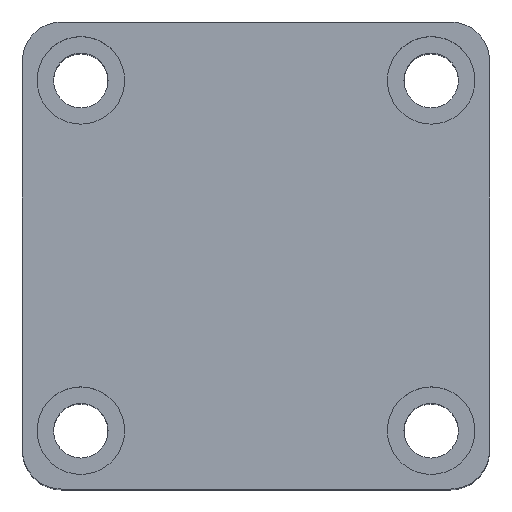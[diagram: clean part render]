
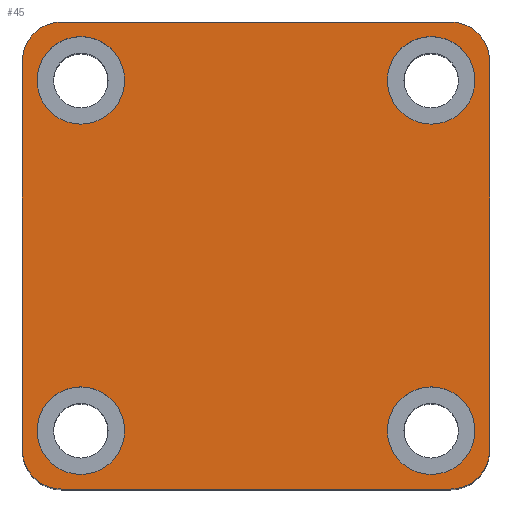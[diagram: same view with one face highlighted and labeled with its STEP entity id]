
A CAD part, top view. The second image highlights one B-rep face of the part: STEP entity #45.
In plain terms, the highlighted planar face has unit normal (0, 0, 1).
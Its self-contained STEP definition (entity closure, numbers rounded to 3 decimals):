
#45 = ADVANCED_FACE ( 'NONE', ( #1462, #1452, #1456, #1453, #1458 ), #1814, .T. ) ;
#203 = AXIS2_PLACEMENT_3D ( 'NONE', #2515, #2512, #2510 ) ;
#204 = AXIS2_PLACEMENT_3D ( 'NONE', #2518, #2517, #2516 ) ;
#205 = AXIS2_PLACEMENT_3D ( 'NONE', #2521, #2520, #2519 ) ;
#206 = AXIS2_PLACEMENT_3D ( 'NONE', #2527, #2526, #2525 ) ;
#207 = AXIS2_PLACEMENT_3D ( 'NONE', #2533, #2532, #2531 ) ;
#208 = AXIS2_PLACEMENT_3D ( 'NONE', #2537, #2536, #2535 ) ;
#209 = AXIS2_PLACEMENT_3D ( 'NONE', #2540, #2539, #2538 ) ;
#210 = AXIS2_PLACEMENT_3D ( 'NONE', #2547, #2544, #2543 ) ;
#230 = AXIS2_PLACEMENT_3D ( 'NONE', #2337, #2336, #2334 ) ;
#232 = AXIS2_PLACEMENT_3D ( 'NONE', #2368, #2366, #2363 ) ;
#234 = AXIS2_PLACEMENT_3D ( 'NONE', #2612, #2605, #2598 ) ;
#236 = AXIS2_PLACEMENT_3D ( 'NONE', #2453, #2450, #2570 ) ;
#263 = AXIS2_PLACEMENT_3D ( 'NONE', #1819, #1817, #1811 ) ;
#427 = EDGE_LOOP ( 'NONE', ( #807, #765 ) ) ;
#515 = EDGE_LOOP ( 'NONE', ( #845, #836, #833, #835, #990, #886, #808, #810 ) ) ;
#516 = EDGE_LOOP ( 'NONE', ( #963, #951 ) ) ;
#518 = EDGE_LOOP ( 'NONE', ( #908, #753 ) ) ;
#519 = EDGE_LOOP ( 'NONE', ( #768, #767 ) ) ;
#528 = VERTEX_POINT ( 'NONE', #1656 ) ;
#529 = VERTEX_POINT ( 'NONE', #1648 ) ;
#540 = VERTEX_POINT ( 'NONE', #1638 ) ;
#542 = VERTEX_POINT ( 'NONE', #1636 ) ;
#575 = VERTEX_POINT ( 'NONE', #1614 ) ;
#582 = VERTEX_POINT ( 'NONE', #1619 ) ;
#584 = VERTEX_POINT ( 'NONE', #1610 ) ;
#606 = VERTEX_POINT ( 'NONE', #1599 ) ;
#633 = VERTEX_POINT ( 'NONE', #1586 ) ;
#662 = VERTEX_POINT ( 'NONE', #1559 ) ;
#663 = VERTEX_POINT ( 'NONE', #1558 ) ;
#681 = VERTEX_POINT ( 'NONE', #1552 ) ;
#751 = VERTEX_POINT ( 'NONE', #1553 ) ;
#752 = VERTEX_POINT ( 'NONE', #1543 ) ;
#753 = ORIENTED_EDGE ( 'NONE', *, *, #2038, .F. ) ;
#755 = VERTEX_POINT ( 'NONE', #1544 ) ;
#765 = ORIENTED_EDGE ( 'NONE', *, *, #2042, .F. ) ;
#767 = ORIENTED_EDGE ( 'NONE', *, *, #2034, .F. ) ;
#768 = ORIENTED_EDGE ( 'NONE', *, *, #2090, .F. ) ;
#773 = VERTEX_POINT ( 'NONE', #1539 ) ;
#807 = ORIENTED_EDGE ( 'NONE', *, *, #2092, .F. ) ;
#808 = ORIENTED_EDGE ( 'NONE', *, *, #2074, .T. ) ;
#810 = ORIENTED_EDGE ( 'NONE', *, *, #2098, .T. ) ;
#833 = ORIENTED_EDGE ( 'NONE', *, *, #2082, .T. ) ;
#835 = ORIENTED_EDGE ( 'NONE', *, *, #2096, .T. ) ;
#836 = ORIENTED_EDGE ( 'NONE', *, *, #2094, .T. ) ;
#845 = ORIENTED_EDGE ( 'NONE', *, *, #2080, .T. ) ;
#886 = ORIENTED_EDGE ( 'NONE', *, *, #2097, .T. ) ;
#908 = ORIENTED_EDGE ( 'NONE', *, *, #2091, .F. ) ;
#951 = ORIENTED_EDGE ( 'NONE', *, *, #2046, .F. ) ;
#963 = ORIENTED_EDGE ( 'NONE', *, *, #2093, .F. ) ;
#990 = ORIENTED_EDGE ( 'NONE', *, *, #2086, .T. ) ;
#1202 = CIRCLE ( 'NONE', #203, 4. ) ;
#1203 = CIRCLE ( 'NONE', #204, 4. ) ;
#1204 = CIRCLE ( 'NONE', #205, 4. ) ;
#1205 = CIRCLE ( 'NONE', #206, 4. ) ;
#1206 = CIRCLE ( 'NONE', #207, 4.5 ) ;
#1207 = CIRCLE ( 'NONE', #208, 4.5 ) ;
#1208 = CIRCLE ( 'NONE', #209, 4.5 ) ;
#1210 = CIRCLE ( 'NONE', #210, 4.5 ) ;
#1215 = VECTOR ( 'NONE', #2558, 1000. ) ;
#1218 = LINE ( 'NONE', #2561, #1215 ) ;
#1223 = VECTOR ( 'NONE', #2567, 1000. ) ;
#1226 = LINE ( 'NONE', #2568, #1223 ) ;
#1227 = VECTOR ( 'NONE', #2572, 1000. ) ;
#1230 = LINE ( 'NONE', #2573, #1227 ) ;
#1239 = VECTOR ( 'NONE', #2600, 1000. ) ;
#1241 = LINE ( 'NONE', #2601, #1239 ) ;
#1280 = CIRCLE ( 'NONE', #230, 4.5 ) ;
#1286 = CIRCLE ( 'NONE', #232, 4.5 ) ;
#1292 = CIRCLE ( 'NONE', #234, 4.5 ) ;
#1298 = CIRCLE ( 'NONE', #236, 4.5 ) ;
#1452 = FACE_BOUND ( 'NONE', #518, .T. ) ;
#1453 = FACE_BOUND ( 'NONE', #516, .T. ) ;
#1456 = FACE_BOUND ( 'NONE', #427, .T. ) ;
#1458 = FACE_OUTER_BOUND ( 'NONE', #515, .T. ) ;
#1462 = FACE_BOUND ( 'NONE', #519, .T. ) ;
#1539 = CARTESIAN_POINT ( 'NONE',  ( 13.5, 18., 55. ) ) ;
#1543 = CARTESIAN_POINT ( 'NONE',  ( -20., -24., 55. ) ) ;
#1544 = CARTESIAN_POINT ( 'NONE',  ( 20., -24., 55. ) ) ;
#1552 = CARTESIAN_POINT ( 'NONE',  ( -13.5, -18., 55. ) ) ;
#1553 = CARTESIAN_POINT ( 'NONE',  ( -24., 20., 55. ) ) ;
#1558 = CARTESIAN_POINT ( 'NONE',  ( -13.5, 18., 55. ) ) ;
#1559 = CARTESIAN_POINT ( 'NONE',  ( 13.5, -18., 55. ) ) ;
#1586 = CARTESIAN_POINT ( 'NONE',  ( 22.5, -18., 55. ) ) ;
#1599 = CARTESIAN_POINT ( 'NONE',  ( 24., 20., 55. ) ) ;
#1610 = CARTESIAN_POINT ( 'NONE',  ( 24., -20., 55. ) ) ;
#1614 = CARTESIAN_POINT ( 'NONE',  ( -24., -20., 55. ) ) ;
#1619 = CARTESIAN_POINT ( 'NONE',  ( -22.5, 18., 55. ) ) ;
#1636 = CARTESIAN_POINT ( 'NONE',  ( 22.5, 18., 55. ) ) ;
#1638 = CARTESIAN_POINT ( 'NONE',  ( -20., 24., 55. ) ) ;
#1648 = CARTESIAN_POINT ( 'NONE',  ( -22.5, -18., 55. ) ) ;
#1656 = CARTESIAN_POINT ( 'NONE',  ( 20., 24., 55. ) ) ;
#1811 = DIRECTION ( 'NONE',  ( 1., 0., 0. ) ) ;
#1814 = PLANE ( 'NONE',  #263 ) ;
#1817 = DIRECTION ( 'NONE',  ( 0., 0., 1. ) ) ;
#1819 = CARTESIAN_POINT ( 'NONE',  ( 0., 0., 55. ) ) ;
#2034 = EDGE_CURVE ( 'NONE', #582, #663, #1298, .T. ) ;
#2038 = EDGE_CURVE ( 'NONE', #773, #542, #1292, .T. ) ;
#2042 = EDGE_CURVE ( 'NONE', #529, #681, #1286, .T. ) ;
#2046 = EDGE_CURVE ( 'NONE', #662, #633, #1280, .T. ) ;
#2074 = EDGE_CURVE ( 'NONE', #584, #606, #1241, .T. ) ;
#2080 = EDGE_CURVE ( 'NONE', #528, #540, #1230, .T. ) ;
#2082 = EDGE_CURVE ( 'NONE', #751, #575, #1226, .T. ) ;
#2086 = EDGE_CURVE ( 'NONE', #752, #755, #1218, .T. ) ;
#2090 = EDGE_CURVE ( 'NONE', #663, #582, #1210, .T. ) ;
#2091 = EDGE_CURVE ( 'NONE', #542, #773, #1208, .T. ) ;
#2092 = EDGE_CURVE ( 'NONE', #681, #529, #1207, .T. ) ;
#2093 = EDGE_CURVE ( 'NONE', #633, #662, #1206, .T. ) ;
#2094 = EDGE_CURVE ( 'NONE', #540, #751, #1205, .T. ) ;
#2096 = EDGE_CURVE ( 'NONE', #575, #752, #1204, .T. ) ;
#2097 = EDGE_CURVE ( 'NONE', #755, #584, #1203, .T. ) ;
#2098 = EDGE_CURVE ( 'NONE', #606, #528, #1202, .T. ) ;
#2334 = DIRECTION ( 'NONE',  ( 1., 0., 0. ) ) ;
#2336 = DIRECTION ( 'NONE',  ( 0., 0., 1. ) ) ;
#2337 = CARTESIAN_POINT ( 'NONE',  ( 18., -18., 55. ) ) ;
#2363 = DIRECTION ( 'NONE',  ( 1., 0., 0. ) ) ;
#2366 = DIRECTION ( 'NONE',  ( 0., 0., 1. ) ) ;
#2368 = CARTESIAN_POINT ( 'NONE',  ( -18., -18., 55. ) ) ;
#2450 = DIRECTION ( 'NONE',  ( 0., 0., 1. ) ) ;
#2453 = CARTESIAN_POINT ( 'NONE',  ( -18., 18., 55. ) ) ;
#2510 = DIRECTION ( 'NONE',  ( 1., 0., 0. ) ) ;
#2512 = DIRECTION ( 'NONE',  ( 0., 0., 1. ) ) ;
#2515 = CARTESIAN_POINT ( 'NONE',  ( 20., 20., 55. ) ) ;
#2516 = DIRECTION ( 'NONE',  ( 1., 0., 0. ) ) ;
#2517 = DIRECTION ( 'NONE',  ( 0., 0., 1. ) ) ;
#2518 = CARTESIAN_POINT ( 'NONE',  ( 20., -20., 55. ) ) ;
#2519 = DIRECTION ( 'NONE',  ( 1., 0., 0. ) ) ;
#2520 = DIRECTION ( 'NONE',  ( 0., 0., 1. ) ) ;
#2521 = CARTESIAN_POINT ( 'NONE',  ( -20., -20., 55. ) ) ;
#2525 = DIRECTION ( 'NONE',  ( 1., 0., 0. ) ) ;
#2526 = DIRECTION ( 'NONE',  ( 0., 0., 1. ) ) ;
#2527 = CARTESIAN_POINT ( 'NONE',  ( -20., 20., 55. ) ) ;
#2531 = DIRECTION ( 'NONE',  ( 1., 0., 0. ) ) ;
#2532 = DIRECTION ( 'NONE',  ( 0., 0., 1. ) ) ;
#2533 = CARTESIAN_POINT ( 'NONE',  ( 18., -18., 55. ) ) ;
#2535 = DIRECTION ( 'NONE',  ( 1., 0., 0. ) ) ;
#2536 = DIRECTION ( 'NONE',  ( 0., 0., 1. ) ) ;
#2537 = CARTESIAN_POINT ( 'NONE',  ( -18., -18., 55. ) ) ;
#2538 = DIRECTION ( 'NONE',  ( 1., 0., 0. ) ) ;
#2539 = DIRECTION ( 'NONE',  ( 0., 0., 1. ) ) ;
#2540 = CARTESIAN_POINT ( 'NONE',  ( 18., 18., 55. ) ) ;
#2543 = DIRECTION ( 'NONE',  ( 1., 0., 0. ) ) ;
#2544 = DIRECTION ( 'NONE',  ( 0., 0., 1. ) ) ;
#2547 = CARTESIAN_POINT ( 'NONE',  ( -18., 18., 55. ) ) ;
#2558 = DIRECTION ( 'NONE',  ( 1., 0., 0. ) ) ;
#2561 = CARTESIAN_POINT ( 'NONE',  ( -24., -24., 55. ) ) ;
#2567 = DIRECTION ( 'NONE',  ( 0., -1., 0. ) ) ;
#2568 = CARTESIAN_POINT ( 'NONE',  ( -24., 24., 55. ) ) ;
#2570 = DIRECTION ( 'NONE',  ( 1., 0., 0. ) ) ;
#2572 = DIRECTION ( 'NONE',  ( -1., 0., 0. ) ) ;
#2573 = CARTESIAN_POINT ( 'NONE',  ( -24., 24., 55. ) ) ;
#2598 = DIRECTION ( 'NONE',  ( 1., 0., 0. ) ) ;
#2600 = DIRECTION ( 'NONE',  ( 0., 1., 0. ) ) ;
#2601 = CARTESIAN_POINT ( 'NONE',  ( 24., 24., 55. ) ) ;
#2605 = DIRECTION ( 'NONE',  ( 0., 0., 1. ) ) ;
#2612 = CARTESIAN_POINT ( 'NONE',  ( 18., 18., 55. ) ) ;
